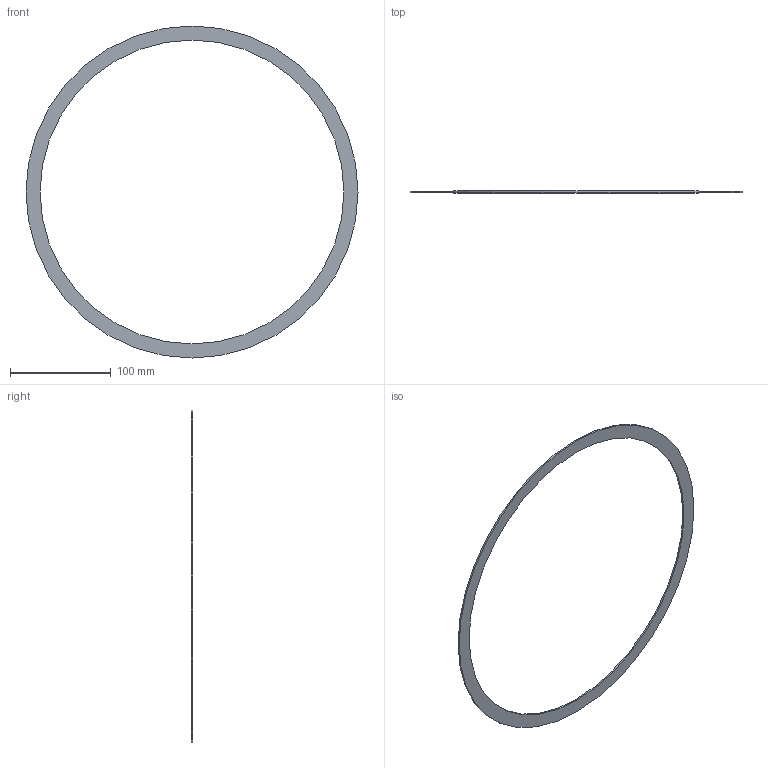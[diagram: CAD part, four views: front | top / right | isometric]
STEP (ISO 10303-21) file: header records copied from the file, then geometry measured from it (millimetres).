
FILE_DESCRIPTION(('Open CASCADE Model'),'2;1');
FILE_NAME('Open CASCADE Shape Model','2026-10-18T22:58:07',('Author'),( 'Open CASCADE'),'Open CASCADE STEP processor 7.9','Open CASCADE 7.9' ,'Unknown');
FILE_SCHEMA(('AUTOMOTIVE_DESIGN { 1 0 10303 214 1 1 1 1 }'));
Length unit declared in the file: millimetre
Products named in the file (1): Open CASCADE STEP translator 7.9 11
Bounding box: 330 x 1.6 x 330 mm (x, y, z)
Volume: 22237.4 mm3; surface area: 30973.6 mm2
Topology: 1 solids, 1 shells, 4 faces, 6 edges, 4 vertices
Faces by surface type: plane 2, cylinder 2
Full cylindrical faces by diameter (mm): 302 x1, 330 x1
Entity records: 186 total; most frequent: DIRECTION 32, CARTESIAN_POINT 27, ORIENTED_EDGE 12, PCURVE 12, DEFINITIONAL_REPRESENTATION 12, LINE 10, VECTOR 10, AXIS2_PLACEMENT_3D 9
